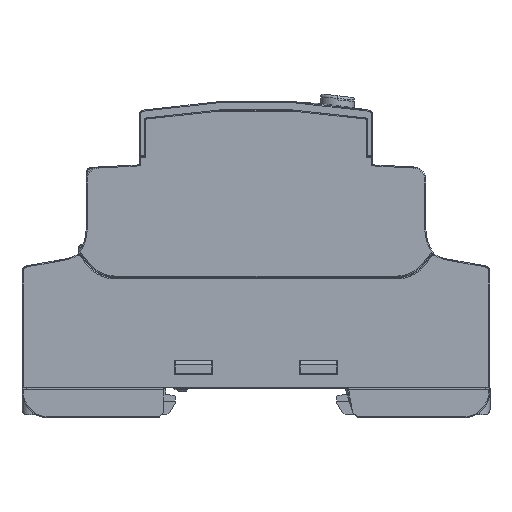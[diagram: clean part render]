
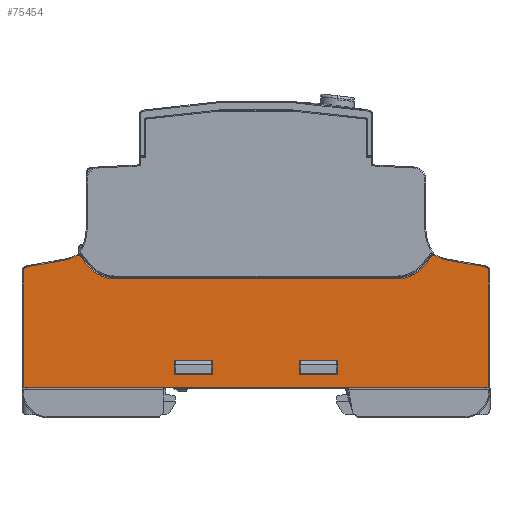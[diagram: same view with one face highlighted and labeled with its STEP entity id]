
A CAD part, left-side view. The second image highlights one B-rep face of the part: STEP entity #75454.
In plain terms, the highlighted planar face has unit normal (-1, 0, 0).
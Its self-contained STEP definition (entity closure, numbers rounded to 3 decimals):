
#2799=DIRECTION('',(0.,1.,0.));
#2800=VECTOR('',#2799,89.6);
#2801=CARTESIAN_POINT('',(-62.3,-44.8,5.9));
#2802=LINE('',#2801,#2800);
#6571=DIRECTION('',(0.,0.,-1.));
#6572=VECTOR('',#6571,22.361);
#6573=CARTESIAN_POINT('',(-62.3,44.8,28.261));
#6574=LINE('',#6573,#6572);
#6578=CARTESIAN_POINT('',(-62.3,44.,28.261));
#6579=DIRECTION('',(-1.,0.,0.));
#6580=DIRECTION('',(0.,0.174,0.985));
#6581=AXIS2_PLACEMENT_3D('',#6578,#6579,#6580);
#6586=DIRECTION('',(0.,0.985,-0.174));
#6587=VECTOR('',#6586,6.963);
#6588=CARTESIAN_POINT('',(-62.3,37.282,30.258));
#6589=LINE('',#6588,#6587);
#6593=CARTESIAN_POINT('',(-62.3,39.053,40.303));
#6594=DIRECTION('',(1.,0.,0.));
#6595=DIRECTION('',(0.,-0.464,-0.886));
#6596=AXIS2_PLACEMENT_3D('',#6593,#6594,#6595);
#6601=CARTESIAN_POINT('',(-62.3,34.184,31.));
#6602=DIRECTION('',(-1.,0.,0.));
#6603=DIRECTION('',(0.,-0.766,0.643));
#6604=AXIS2_PLACEMENT_3D('',#6601,#6602,#6603);
#6609=DIRECTION('',(0.,0.643,0.766));
#6610=VECTOR('',#6609,2.937);
#6611=CARTESIAN_POINT('',(-62.3,32.067,28.943));
#6612=LINE('',#6611,#6610);
#6616=CARTESIAN_POINT('',(-62.3,27.47,32.8));
#6617=DIRECTION('',(1.,0.,0.));
#6618=DIRECTION('',(0.,0.,-1.));
#6619=AXIS2_PLACEMENT_3D('',#6616,#6617,#6618);
#6624=DIRECTION('',(0.,1.,0.));
#6625=VECTOR('',#6624,54.941);
#6626=CARTESIAN_POINT('',(-62.3,-27.47,26.8));
#6627=LINE('',#6626,#6625);
#6631=CARTESIAN_POINT('',(-62.3,-27.47,32.8));
#6632=DIRECTION('',(1.,0.,0.));
#6633=DIRECTION('',(0.,-0.766,-0.643));
#6634=AXIS2_PLACEMENT_3D('',#6631,#6632,#6633);
#6639=DIRECTION('',(0.,0.643,-0.766));
#6640=VECTOR('',#6639,2.937);
#6641=CARTESIAN_POINT('',(-62.3,-33.954,31.193));
#6642=LINE('',#6641,#6640);
#6646=CARTESIAN_POINT('',(-62.3,-34.184,31.));
#6647=DIRECTION('',(-1.,0.,0.));
#6648=DIRECTION('',(0.,-0.464,0.886));
#6649=AXIS2_PLACEMENT_3D('',#6646,#6647,#6648);
#6654=CARTESIAN_POINT('',(-62.3,-39.053,40.303));
#6655=DIRECTION('',(1.,0.,0.));
#6656=DIRECTION('',(0.,0.174,-0.985));
#6657=AXIS2_PLACEMENT_3D('',#6654,#6655,#6656);
#6662=DIRECTION('',(0.,0.985,0.174));
#6663=VECTOR('',#6662,6.963);
#6664=CARTESIAN_POINT('',(-62.3,-44.139,29.049));
#6665=LINE('',#6664,#6663);
#6669=CARTESIAN_POINT('',(-62.3,-44.,28.261));
#6670=DIRECTION('',(-1.,0.,0.));
#6671=DIRECTION('',(0.,-1.,0.));
#6672=AXIS2_PLACEMENT_3D('',#6669,#6670,#6671);
#6677=DIRECTION('',(0.,0.,1.));
#6678=VECTOR('',#6677,22.361);
#6679=CARTESIAN_POINT('',(-62.3,-44.8,5.9));
#6680=LINE('',#6679,#6678);
#6684=DIRECTION('',(0.,0.,1.));
#6685=VECTOR('',#6684,2.8);
#6686=CARTESIAN_POINT('',(-62.3,15.7,8.3));
#6687=LINE('',#6686,#6685);
#6691=DIRECTION('',(0.,1.,0.));
#6692=VECTOR('',#6691,7.4);
#6693=CARTESIAN_POINT('',(-62.3,8.3,8.3));
#6694=LINE('',#6693,#6692);
#6698=DIRECTION('',(0.,0.,-1.));
#6699=VECTOR('',#6698,2.8);
#6700=CARTESIAN_POINT('',(-62.3,8.3,11.1));
#6701=LINE('',#6700,#6699);
#6705=DIRECTION('',(0.,-1.,0.));
#6706=VECTOR('',#6705,7.4);
#6707=CARTESIAN_POINT('',(-62.3,15.7,11.1));
#6708=LINE('',#6707,#6706);
#6712=DIRECTION('',(0.,0.,1.));
#6713=VECTOR('',#6712,2.8);
#6714=CARTESIAN_POINT('',(-62.3,-8.3,8.3));
#6715=LINE('',#6714,#6713);
#6719=DIRECTION('',(0.,1.,0.));
#6720=VECTOR('',#6719,7.4);
#6721=CARTESIAN_POINT('',(-62.3,-15.7,8.3));
#6722=LINE('',#6721,#6720);
#6726=DIRECTION('',(0.,0.,-1.));
#6727=VECTOR('',#6726,2.8);
#6728=CARTESIAN_POINT('',(-62.3,-15.7,11.1));
#6729=LINE('',#6728,#6727);
#6733=DIRECTION('',(0.,-1.,0.));
#6734=VECTOR('',#6733,7.4);
#6735=CARTESIAN_POINT('',(-62.3,-8.3,11.1));
#6736=LINE('',#6735,#6734);
#64562=CARTESIAN_POINT('',(-62.3,44.8,28.261));
#64563=CARTESIAN_POINT('',(-62.3,44.8,5.9));
#64564=VERTEX_POINT('',#64562);
#64565=VERTEX_POINT('',#64563);
#64566=CARTESIAN_POINT('',(-62.3,44.139,29.049));
#64567=VERTEX_POINT('',#64566);
#64570=CARTESIAN_POINT('',(-62.3,37.282,30.258));
#64571=VERTEX_POINT('',#64570);
#64574=CARTESIAN_POINT('',(-62.3,34.323,31.266));
#64575=VERTEX_POINT('',#64574);
#64578=CARTESIAN_POINT('',(-62.3,33.954,31.193));
#64579=VERTEX_POINT('',#64578);
#64580=CARTESIAN_POINT('',(-62.3,32.067,28.943));
#64581=VERTEX_POINT('',#64580);
#64586=CARTESIAN_POINT('',(-62.3,27.47,26.8));
#64587=VERTEX_POINT('',#64586);
#64590=CARTESIAN_POINT('',(-62.3,-27.47,26.8));
#64591=VERTEX_POINT('',#64590);
#64594=CARTESIAN_POINT('',(-62.3,-32.067,28.943));
#64595=VERTEX_POINT('',#64594);
#64598=CARTESIAN_POINT('',(-62.3,-33.954,31.193));
#64599=VERTEX_POINT('',#64598);
#64602=CARTESIAN_POINT('',(-62.3,-34.323,31.266));
#64603=VERTEX_POINT('',#64602);
#64604=CARTESIAN_POINT('',(-62.3,-37.282,30.258));
#64605=VERTEX_POINT('',#64604);
#64610=CARTESIAN_POINT('',(-62.3,-44.139,29.049));
#64611=VERTEX_POINT('',#64610);
#64614=CARTESIAN_POINT('',(-62.3,-44.8,28.261));
#64615=VERTEX_POINT('',#64614);
#64618=CARTESIAN_POINT('',(-62.3,-44.8,5.9));
#64619=VERTEX_POINT('',#64618);
#64694=CARTESIAN_POINT('',(-62.3,15.7,8.3));
#64695=CARTESIAN_POINT('',(-62.3,15.7,11.1));
#64696=VERTEX_POINT('',#64694);
#64697=VERTEX_POINT('',#64695);
#64698=CARTESIAN_POINT('',(-62.3,8.3,11.1));
#64699=VERTEX_POINT('',#64698);
#64700=CARTESIAN_POINT('',(-62.3,8.3,8.3));
#64701=VERTEX_POINT('',#64700);
#64702=CARTESIAN_POINT('',(-62.3,-8.3,8.3));
#64703=CARTESIAN_POINT('',(-62.3,-8.3,11.1));
#64704=VERTEX_POINT('',#64702);
#64705=VERTEX_POINT('',#64703);
#64706=CARTESIAN_POINT('',(-62.3,-15.7,11.1));
#64707=VERTEX_POINT('',#64706);
#64708=CARTESIAN_POINT('',(-62.3,-15.7,8.3));
#64709=VERTEX_POINT('',#64708);
#75398=CARTESIAN_POINT('',(-62.3,0.,9.9));
#75399=DIRECTION('',(1.,0.,0.));
#75400=DIRECTION('',(0.,1.,0.));
#75401=AXIS2_PLACEMENT_3D('',#75398,#75399,#75400);
#75402=PLANE('',#75401);
#75403=ORIENTED_EDGE('',*,*,#75377,.F.);
#75404=ORIENTED_EDGE('',*,*,#75388,.F.);
#75406=ORIENTED_EDGE('',*,*,#75405,.F.);
#75408=ORIENTED_EDGE('',*,*,#75407,.F.);
#75410=ORIENTED_EDGE('',*,*,#75409,.F.);
#75412=ORIENTED_EDGE('',*,*,#75411,.F.);
#75414=ORIENTED_EDGE('',*,*,#75413,.F.);
#75416=ORIENTED_EDGE('',*,*,#75415,.F.);
#75418=ORIENTED_EDGE('',*,*,#75417,.F.);
#75420=ORIENTED_EDGE('',*,*,#75419,.F.);
#75422=ORIENTED_EDGE('',*,*,#75421,.F.);
#75424=ORIENTED_EDGE('',*,*,#75423,.F.);
#75426=ORIENTED_EDGE('',*,*,#75425,.F.);
#75428=ORIENTED_EDGE('',*,*,#75427,.F.);
#75430=ORIENTED_EDGE('',*,*,#75429,.F.);
#75431=ORIENTED_EDGE('',*,*,#72380,.T.);
#75432=EDGE_LOOP('',(#75403,#75404,#75406,#75408,#75410,#75412,#75414,#75416,
#75418,#75420,#75422,#75424,#75426,#75428,#75430,#75431));
#75433=FACE_OUTER_BOUND('',#75432,.F.);
#75435=ORIENTED_EDGE('',*,*,#75434,.F.);
#75437=ORIENTED_EDGE('',*,*,#75436,.F.);
#75439=ORIENTED_EDGE('',*,*,#75438,.F.);
#75441=ORIENTED_EDGE('',*,*,#75440,.F.);
#75442=EDGE_LOOP('',(#75435,#75437,#75439,#75441));
#75443=FACE_BOUND('',#75442,.F.);
#75445=ORIENTED_EDGE('',*,*,#75444,.F.);
#75447=ORIENTED_EDGE('',*,*,#75446,.F.);
#75449=ORIENTED_EDGE('',*,*,#75448,.F.);
#75451=ORIENTED_EDGE('',*,*,#75450,.F.);
#75452=EDGE_LOOP('',(#75445,#75447,#75449,#75451));
#75453=FACE_BOUND('',#75452,.F.);
#6582=CIRCLE('',#6581,0.8);
#6597=CIRCLE('',#6596,10.2);
#6605=CIRCLE('',#6604,0.3);
#6620=CIRCLE('',#6619,6.);
#6635=CIRCLE('',#6634,6.);
#6650=CIRCLE('',#6649,0.3);
#6658=CIRCLE('',#6657,10.2);
#6673=CIRCLE('',#6672,0.8);
#72380=EDGE_CURVE('',#64619,#64565,#2802,.T.);
#75377=EDGE_CURVE('',#64564,#64565,#6574,.T.);
#75388=EDGE_CURVE('',#64567,#64564,#6582,.T.);
#75405=EDGE_CURVE('',#64571,#64567,#6589,.T.);
#75407=EDGE_CURVE('',#64575,#64571,#6597,.T.);
#75409=EDGE_CURVE('',#64579,#64575,#6605,.T.);
#75411=EDGE_CURVE('',#64581,#64579,#6612,.T.);
#75413=EDGE_CURVE('',#64587,#64581,#6620,.T.);
#75415=EDGE_CURVE('',#64591,#64587,#6627,.T.);
#75417=EDGE_CURVE('',#64595,#64591,#6635,.T.);
#75419=EDGE_CURVE('',#64599,#64595,#6642,.T.);
#75421=EDGE_CURVE('',#64603,#64599,#6650,.T.);
#75423=EDGE_CURVE('',#64605,#64603,#6658,.T.);
#75425=EDGE_CURVE('',#64611,#64605,#6665,.T.);
#75427=EDGE_CURVE('',#64615,#64611,#6673,.T.);
#75429=EDGE_CURVE('',#64619,#64615,#6680,.T.);
#75434=EDGE_CURVE('',#64696,#64697,#6687,.T.);
#75436=EDGE_CURVE('',#64701,#64696,#6694,.T.);
#75438=EDGE_CURVE('',#64699,#64701,#6701,.T.);
#75440=EDGE_CURVE('',#64697,#64699,#6708,.T.);
#75444=EDGE_CURVE('',#64704,#64705,#6715,.T.);
#75446=EDGE_CURVE('',#64709,#64704,#6722,.T.);
#75448=EDGE_CURVE('',#64707,#64709,#6729,.T.);
#75450=EDGE_CURVE('',#64705,#64707,#6736,.T.);
#75454=ADVANCED_FACE('',(#75433,#75443,#75453),#75402,.F.);
